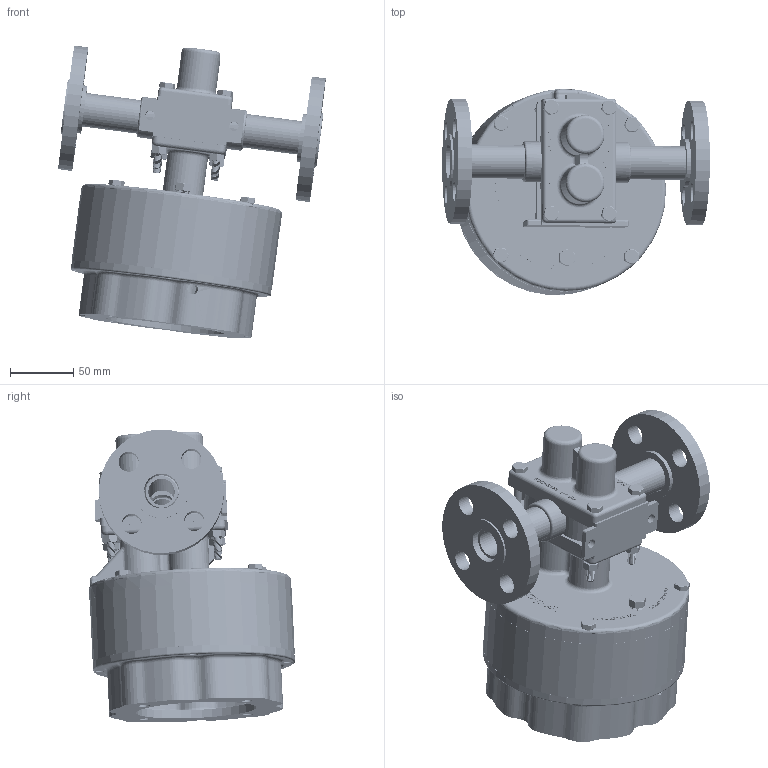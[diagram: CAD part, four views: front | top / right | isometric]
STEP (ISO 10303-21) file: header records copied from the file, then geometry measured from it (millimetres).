
FILE_DESCRIPTION (( 'STEP AP214' ), '1' );
FILE_NAME ('GMC6 FLGD IEC90 NO MOTOR.STEP', '2025-10-01T14:38:59', ( '' ), ( '' ), 'SwSTEP 2.0', 'SolidWorks 2024', '' );
FILE_SCHEMA (( 'AUTOMOTIVE_DESIGN' ));
Length unit declared in the file: inch
Products named in the file (1): GMC6 FLGD IEC90 NO MOTOR
Bounding box: 211.08 x 162.08 x 230.95 mm (x, y, z)
Volume: 998320.6 mm3; surface area: 340763.5 mm2
Topology: 29 solids, 29 shells, 3834 faces, 9150 edges, 5486 vertices
Faces by surface type: cylinder 1331, cone 1011, plane 966, bspline 366, torus 140, sphere 20
Entity records: 151949 total; most frequent: CARTESIAN_POINT 67000, ORIENTED_EDGE 18264, DIRECTION 16382, EDGE_CURVE 9132, AXIS2_PLACEMENT_3D 5862, VERTEX_POINT 5486, VECTOR 4658, LINE 4658
